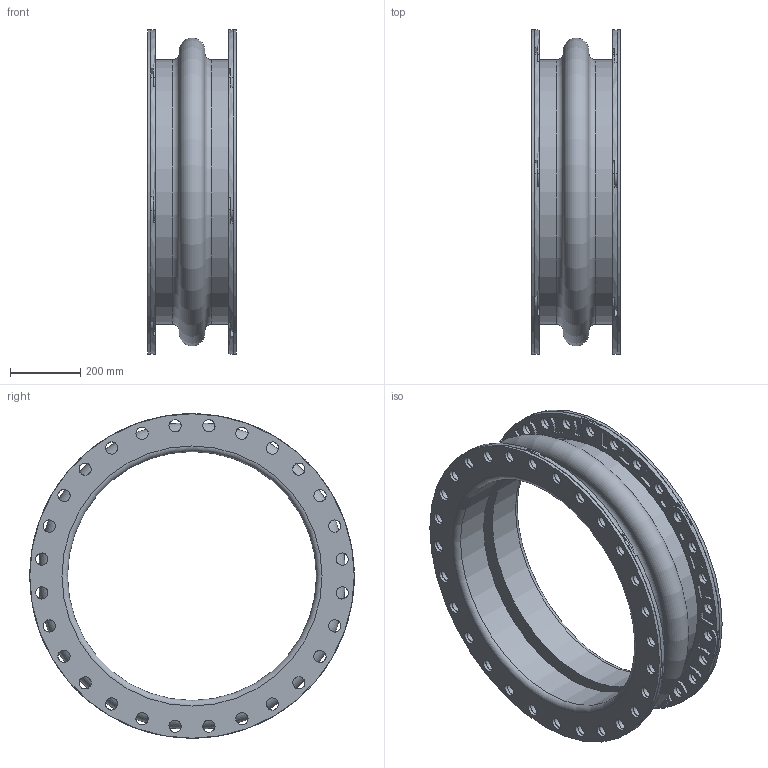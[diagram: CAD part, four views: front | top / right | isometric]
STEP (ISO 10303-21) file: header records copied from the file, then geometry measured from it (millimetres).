
FILE_DESCRIPTION(/* description */ (''),/* implementation_level */ '2;1');
FILE_NAME(/* name */ 'C:\001_Work\Designs\Mercer2014\MQInventor2014\RajR\500 Style\501\New folder\501 28IDx10FF.stp',/* time_stamp */ '2016-03-26T14:22:21-04:00',/* author */ ('rramoutar'),/* organization */ ('Mason Industries Inc.'),/* preprocessor_version */ 'ST-DEVELOPER v15.6',/* originating_system */ 'Autodesk Inventor 2015',/* authorisation */ '');
FILE_SCHEMA (('CONFIG_CONTROL_DESIGN','AUTOMOTIVE_DESIGN { 1 0 10303 214 3 1 1 }'));
Length unit declared in the file: inch
Products named in the file (1): 501 28IDx10FF
Bounding box: 254 x 927.1 x 927.1 mm (x, y, z)
Volume: 26210223.2 mm3; surface area: 3625866.2 mm2
Topology: 3 solids, 3 shells, 838 faces, 2330 edges, 1552 vertices
Faces by surface type: cylinder 598, plane 200, torus 36, cone 4
Full cylindrical faces by diameter (mm): 34.925 x112, 711.2 x2, 755.65 x2, 771.525 x2, 927.1 x4
Entity records: 28448 total; most frequent: DIRECTION 5166, CARTESIAN_POINT 4985, ORIENTED_EDGE 4356, AXIS2_PLACEMENT_3D 2191, EDGE_CURVE 2178, VERTEX_POINT 1534, CIRCLE 1352, EDGE_LOOP 1256
